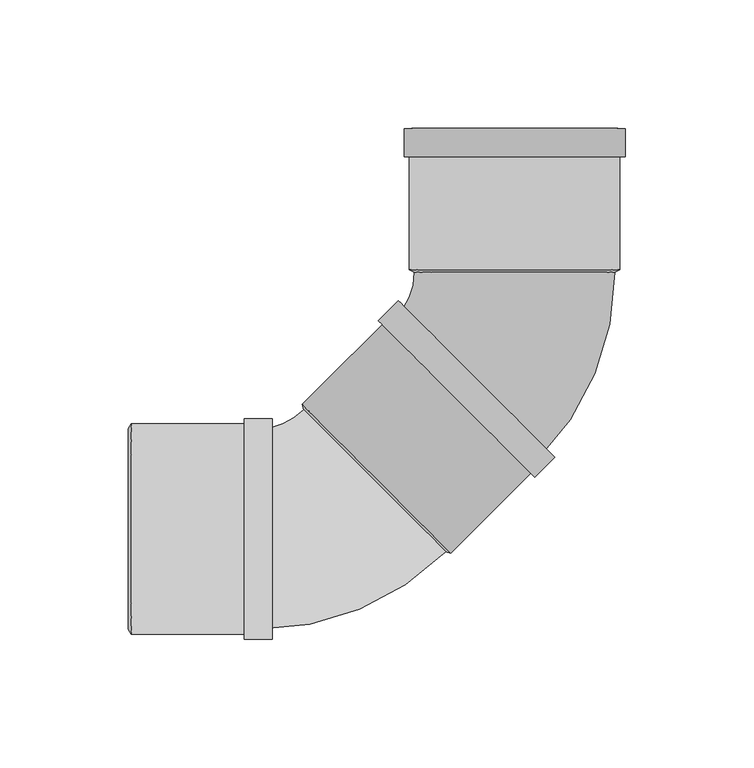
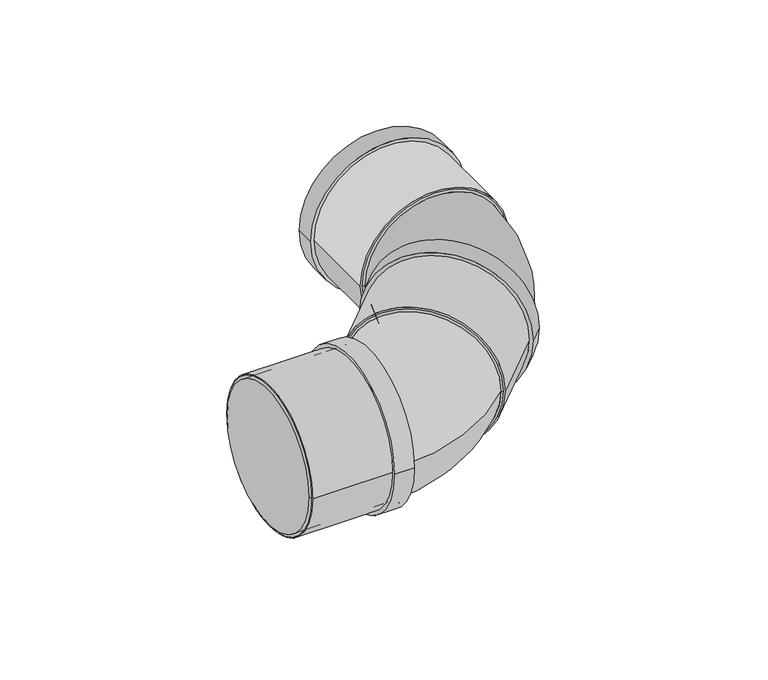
"""IFC4 building model written with IfcOpenShell, lengths in millimetres: pipe fitting geometry, Superdrain SK Bend_Composite 2x45 : Superdrain SK Bend_Composite 2x45."""

from ifc_helpers import new_model, si_unit, point, frame, origin, origin_2d, place, context, project, spatial, polyline, circle_curve, ellipse_curve, trimmed, segment, composite_curve, outline, extrude, source, transform, mapped, element, save
from ifc_brep_helpers import plane_surface, revolved_surface, advanced_brep


def pipe_fitting_d8c1b99f(model_context):
    return source(origin(), model_context, "Body", "SolidModel", [
        advanced_brep(
        [(39.0, 99.8562625, 0.0), (-39.0, 99.8562625, 0.0), (8.7681241, 26.8700577, 0.0), (-46.3862048, 82.0243866, 0.0)],
        [
            (0, 1, circle_curve(frame((0.0, 99.8562625, 0.0), z_axis=(0.0, 1.0, 0.0), x_axis=(-1.0, 0.0, 0.0)), 39.0)),
            (1, 0, circle_curve(frame((0.0, 99.8562625, 0.0), z_axis=(0.0, 1.0, 0.0), x_axis=(-1.0, 0.0, 0.0)), 39.0)),
            (2, 3, circle_curve(frame((-18.8090404, 54.4472222, 0.0), z_axis=(-0.7071067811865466, -0.7071067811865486, 0.0), x_axis=(-0.7071067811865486, 0.7071067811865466, 0.0)), 39.0)),
            (3, 2, circle_curve(frame((-18.8090404, 54.4472222, 0.0), z_axis=(-0.7071067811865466, -0.7071067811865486, 0.0), x_axis=(-0.7071067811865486, 0.7071067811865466, 0.0)), 39.0)),
            (3, 1, circle_curve(frame((-64.2180808, 99.8562625, 0.0), z_axis=(0.0, 0.0, 1.0), x_axis=(0.707106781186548, 0.7071067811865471, 0.0)), 25.2180808)),
            (0, 2, circle_curve(frame((-64.2180808, 99.8562625, 0.0), z_axis=(0.0, 0.0, -1.0), x_axis=(0.707106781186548, 0.7071067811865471, 0.0)), 103.2180808)),
        ],
        [
            plane_surface(frame((0.0, 99.8562625, 0.0), z_axis=(0.0, 1.0, 0.0), x_axis=(0.0, 0.0, -1.0))),
            plane_surface(frame((-18.8090404, 54.4472222, 0.0), z_axis=(-0.7071067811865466, -0.7071067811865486, 0.0), x_axis=(0.0, 0.0, -1.0))),
            revolved_surface(trimmed(ellipse_curve(frame((-18.8090404, 145.2653029, 0.0), z_axis=(0.7071067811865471, -0.707106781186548, 0.0), x_axis=(-0.707106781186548, -0.7071067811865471, 0.0)), 39.0, 39.0), [point((-46.3862048, 117.6881384, 0.0))], [point((8.7681241, 172.8424674, 0.0))], True, "CARTESIAN"), (-64.2180808, 99.8562625, 0.0), (0.0, 0.0, 1.0)),
            revolved_surface(trimmed(ellipse_curve(frame((-18.8090404, 145.2653029, 0.0), z_axis=(0.7071067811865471, -0.707106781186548, 0.0), x_axis=(-0.707106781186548, -0.7071067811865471, 0.0)), 39.0, 39.0), [point((8.7681241, 172.8424674, 0.0))], [point((-46.3862048, 117.6881384, 0.0))], True, "CARTESIAN"), (-64.2180808, 99.8562625, 0.0), (0.0, 0.0, 1.0)),
        ],
        [
            (0, [[1, 2]]),
            (1, [[3, 4]]),
            (2, [[-4, 5, -1, 6]]),
            (3, [[-3, -6, -2, -5]]),
        ],
    ),
        extrude(outline(composite_curve([segment(trimmed(circle_curve(origin_2d(), 40.95), [point((0.0, 40.95))], [point((0.0, -40.95))], False, "CARTESIAN"), True, "CONTINUOUS"), segment(trimmed(circle_curve(origin_2d(), 40.95), [point((0.0, -40.95))], [point((0.0, 40.95))], False, "CARTESIAN"), True, "CONTINUOUS")], self_intersect=False), holes=[composite_curve([segment(trimmed(circle_curve(origin_2d(), 39.0), [point((0.0, 39.0))], [point((0.0, -39.0))], True, "CARTESIAN"), True, "CONTINUOUS"), segment(trimmed(circle_curve(origin_2d(), 39.0), [point((0.0, -39.0))], [point((0.0, 39.0))], True, "CARTESIAN"), True, "CONTINUOUS")], self_intersect=False)]), frame((0.0, 100.8562625, 0.0), z_axis=(0.0, 1.0, 0.0), x_axis=(0.0, 0.0, 1.0)), (0.0, 0.0, 1.0), 55.0),
        extrude(outline(composite_curve([segment(trimmed(circle_curve(origin_2d(), 42.9975), [point((0.0, -42.9975))], [point((0.0, 42.9975))], False, "CARTESIAN"), True, "CONTINUOUS"), segment(trimmed(circle_curve(origin_2d(), 42.9975), [point((0.0, 42.9975))], [point((0.0, -42.9975))], False, "CARTESIAN"), True, "CONTINUOUS")], self_intersect=False), holes=[composite_curve([segment(trimmed(circle_curve(origin_2d(), 39.0), [point((0.0, -39.0))], [point((0.0, 39.0))], True, "CARTESIAN"), True, "CONTINUOUS"), segment(trimmed(circle_curve(origin_2d(), 39.0), [point((0.0, 39.0))], [point((0.0, -39.0))], True, "CARTESIAN"), True, "CONTINUOUS")], self_intersect=False)]), frame((0.0, 144.8562625, 0.0), z_axis=(0.0, 1.0, 0.0), x_axis=(0.0, 0.0, 1.0)), (0.0, 0.0, 1.0), 11.0),
        advanced_brep(
        [(40.95, 100.8562625, 0.0), (-40.95, 100.8562625, 0.0), (39.0, 99.8562625, 0.0), (-39.0, 99.8562625, 0.0)],
        [
            (0, 1, circle_curve(frame((0.0, 100.8562625, 0.0), z_axis=(0.0, 1.0, 0.0), x_axis=(1.0, 0.0, 0.0)), 40.95)),
            (1, 0, circle_curve(frame((0.0, 100.8562625, 0.0), z_axis=(0.0, 1.0, 0.0), x_axis=(-1.0, 0.0, 0.0)), 40.95)),
            (2, 3, circle_curve(frame((0.0, 99.8562625, 0.0), z_axis=(0.0, -1.0, 0.0), x_axis=(-1.0, 0.0, 0.0)), 39.0)),
            (3, 2, circle_curve(frame((0.0, 99.8562625, 0.0), z_axis=(0.0, -1.0, 0.0), x_axis=(1.0, 0.0, 0.0)), 39.0)),
            (3, 1),
            (0, 2),
        ],
        [
            plane_surface(frame((0.0, 100.8562625, 0.0), z_axis=(0.0, 1.0, 0.0), x_axis=(0.0, 0.0, -1.0))),
            plane_surface(frame((0.0, 99.8562625, 0.0), z_axis=(0.0, -1.0, 0.0), x_axis=(0.0, 0.0, -1.0))),
            revolved_surface(polyline([(-39.0, 99.8562625, 0.0), (-40.95, 100.8562625, 0.0)]), (0.0, 79.8562625, 0.0), (0.0, 1.0, 0.0)),
            revolved_surface(polyline([(39.0, 99.8562625, 0.0), (40.95, 100.8562625, 0.0)]), (0.0, 79.8562625, 0.0), (0.0, 1.0, 0.0)),
        ],
        [
            (0, [[1, 2]]),
            (1, [[3, 4]]),
            (2, [[-4, 5, -1, 6]]),
            (3, [[-3, -6, -2, -5]]),
        ],
    ),
        extrude(outline(composite_curve([segment(trimmed(circle_curve(origin_2d(), 39.0), [point((0.0, -39.0))], [point((0.0, 38.9999999))], False, "CARTESIAN"), True, "CONTINUOUS"), segment(trimmed(circle_curve(origin_2d(), 39.0), [point((0.0, 38.9999999))], [point((0.0, -39.0))], False, "CARTESIAN"), True, "CONTINUOUS")], self_intersect=False)), frame((-53.7401154, 19.5161472, 0.0), z_axis=(0.707106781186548, 0.7071067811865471, 0.0), x_axis=(0.0, 0.0, -1.0)), (0.0, 0.0, 1.0), 49.4),
        extrude(outline(composite_curve([segment(trimmed(circle_curve(origin_2d(), 40.95), [point((40.95, 0.0))], [point((-40.95, 0.0))], False, "CARTESIAN"), True, "CONTINUOUS"), segment(trimmed(circle_curve(origin_2d(), 40.95), [point((-40.95, 0.0))], [point((40.95, 0.0))], False, "CARTESIAN"), True, "CONTINUOUS")], self_intersect=False), holes=[composite_curve([segment(trimmed(circle_curve(origin_2d(), 39.0), [point((39.0, 0.0))], [point((-39.0, 0.0))], True, "CARTESIAN"), True, "CONTINUOUS"), segment(trimmed(circle_curve(origin_2d(), 39.0), [point((-39.0, 0.0))], [point((39.0, 0.0))], True, "CARTESIAN"), True, "CONTINUOUS")], self_intersect=False)]), frame((-149.2562625, 0.0, 0.0), z_axis=(1.0, 0.0, 0.0), x_axis=(0.0, 1.0, 0.0)), (0.0, 0.0, 1.0), 55.0),
        extrude(outline(composite_curve([segment(trimmed(circle_curve(origin_2d(), 42.9975), [point((42.9975, 0.0))], [point((-42.9975, 0.0))], False, "CARTESIAN"), True, "CONTINUOUS"), segment(trimmed(circle_curve(origin_2d(), 42.9975), [point((-42.9975, 0.0))], [point((42.9975, 0.0))], False, "CARTESIAN"), True, "CONTINUOUS")], self_intersect=False), holes=[composite_curve([segment(trimmed(circle_curve(origin_2d(), 39.0), [point((39.0, 0.0))], [point((-39.0, 0.0))], True, "CARTESIAN"), True, "CONTINUOUS"), segment(trimmed(circle_curve(origin_2d(), 39.0), [point((-39.0, 0.0))], [point((39.0, 0.0))], True, "CARTESIAN"), True, "CONTINUOUS")], self_intersect=False)]), frame((-105.2562625, 0.0, 0.0), z_axis=(1.0, 0.0, 0.0), x_axis=(0.0, 1.0, 0.0)), (0.0, 0.0, 1.0), 11.0),
        advanced_brep(
        [(-150.2562625, 39.0, 0.0), (-150.2562625, -39.0, 0.0), (-149.2562625, 40.95, 0.0), (-149.2562625, -40.95, 0.0)],
        [
            (0, 1, circle_curve(frame((-150.2562625, 0.0, 0.0), z_axis=(-1.0, 0.0, 0.0), x_axis=(0.0, 1.0, 0.0)), 39.0)),
            (1, 0, circle_curve(frame((-150.2562625, 0.0, 0.0), z_axis=(-1.0, 0.0, 0.0), x_axis=(0.0, -1.0, 0.0)), 39.0)),
            (2, 3, circle_curve(frame((-149.2562625, 0.0, 0.0), z_axis=(1.0, 0.0, 0.0), x_axis=(0.0, -1.0, 0.0)), 40.95)),
            (3, 2, circle_curve(frame((-149.2562625, 0.0, 0.0), z_axis=(1.0, 0.0, 0.0), x_axis=(0.0, 1.0, 0.0)), 40.95)),
            (3, 1),
            (0, 2),
        ],
        [
            plane_surface(frame((-150.2562625, 0.0, 0.0), z_axis=(-1.0, 0.0, 0.0), x_axis=(0.0, 0.0, -1.0))),
            plane_surface(frame((-149.2562625, 0.0, 0.0), z_axis=(1.0, 0.0, 0.0), x_axis=(0.0, 0.0, -1.0))),
            revolved_surface(polyline([(-150.2562625, 39.0, 0.0), (-149.2562625, 40.95, 0.0)]), (-170.2562625, 0.0, 0.0), (1.0, 0.0, 0.0)),
            revolved_surface(polyline([(-150.2562625, -39.0, 0.0), (-149.2562625, -40.95, 0.0)]), (-170.2562625, 0.0, 0.0), (1.0, 0.0, 0.0)),
        ],
        [
            (0, [[1, 2]]),
            (1, [[3, 4]]),
            (2, [[-4, 5, -1, 6]]),
            (3, [[-3, -6, -2, -5]]),
        ],
    ),
        advanced_brep(
        [(-26.8700577, -8.7681241, 0.0), (-82.0243866, 46.3862048, 0.0), (-99.8562625, -39.0, 0.0), (-99.8562625, 39.0, 0.0)],
        [
            (0, 1, circle_curve(frame((-54.4472222, 18.8090404, 0.0), z_axis=(0.7071067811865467, 0.7071067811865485, 0.0), x_axis=(-0.7071067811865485, 0.7071067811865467, 0.0)), 39.0)),
            (1, 0, circle_curve(frame((-54.4472222, 18.8090404, 0.0), z_axis=(0.7071067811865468, 0.7071067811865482, 0.0), x_axis=(-0.7071067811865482, 0.7071067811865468, 0.0)), 39.0)),
            (2, 3, circle_curve(frame((-99.8562625, 0.0, 0.0), z_axis=(-1.0, 0.0, 0.0), x_axis=(0.0, 1.0, 0.0)), 39.0)),
            (3, 2, circle_curve(frame((-99.8562625, 0.0, 0.0), z_axis=(-1.0, 0.0, 0.0), x_axis=(0.0, 1.0, 0.0)), 39.0)),
            (3, 1, circle_curve(frame((-99.8562625, 64.2180808, 0.0), z_axis=(0.0, 0.0, 1.0), x_axis=(1.0, 0.0, 0.0)), 25.2180808)),
            (0, 2, circle_curve(frame((-99.8562625, 64.2180808, 0.0), z_axis=(0.0, 0.0, -1.0), x_axis=(1.0, 0.0, 0.0)), 103.2180808)),
        ],
        [
            plane_surface(frame((-54.4472222, 18.8090404, 0.0), z_axis=(0.7071067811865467, 0.7071067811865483, 0.0), x_axis=(0.0, 0.0, -1.0))),
            plane_surface(frame((-99.8562625, 0.0, 0.0), z_axis=(-1.0, 0.0, 0.0), x_axis=(0.0, 0.0, -1.0))),
            revolved_surface(trimmed(ellipse_curve(frame((-35.6381818, 64.2180808, 0.0), z_axis=(0.0, -1.0, 0.0), x_axis=(-1.0, 0.0, 0.0)), 39.0, 39.0), [point((-74.6381818, 64.2180808, 0.0))], [point((3.3618182, 64.2180808, 0.0))], True, "CARTESIAN"), (-99.8562625, 64.2180808, 0.0), (0.0, 0.0, 1.0)),
            revolved_surface(trimmed(ellipse_curve(frame((-35.6381818, 64.2180808, 0.0), z_axis=(0.0, -1.0, 0.0), x_axis=(-1.0, 0.0, 0.0)), 39.0, 39.0), [point((3.3618182, 64.2180808, 0.0))], [point((-74.6381818, 64.2180808, 0.0))], True, "CARTESIAN"), (-99.8562625, 64.2180808, 0.0), (0.0, 0.0, 1.0)),
        ],
        [
            (0, [[1, 2]]),
            (1, [[3, 4]]),
            (2, [[-4, 5, -1, 6]]),
            (3, [[-3, -6, -2, -5]]),
        ],
    ),
        extrude(outline(composite_curve([segment(trimmed(circle_curve(origin_2d(), 40.95), [point((0.0, 40.95))], [point((0.0, -40.95))], False, "CARTESIAN"), True, "CONTINUOUS"), segment(trimmed(circle_curve(origin_2d(), 40.95), [point((0.0, -40.95))], [point((0.0, 40.95))], False, "CARTESIAN"), True, "CONTINUOUS")], self_intersect=False), holes=[composite_curve([segment(trimmed(circle_curve(origin_2d(), 39.0), [point((0.0, 39.0))], [point((0.0, -38.9999999))], True, "CARTESIAN"), True, "CONTINUOUS"), segment(trimmed(circle_curve(origin_2d(), 39.0), [point((0.0, -38.9999999))], [point((0.0, 39.0))], True, "CARTESIAN"), True, "CONTINUOUS")], self_intersect=False)]), frame((-53.7401154, 19.5161472, 0.0), z_axis=(0.7071067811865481, 0.707106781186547, 0.0), x_axis=(0.0, 0.0, 1.0)), (0.0, 0.0, 1.0), 55.0),
        extrude(outline(composite_curve([segment(trimmed(circle_curve(origin_2d(), 42.9975), [point((0.0, -42.9975))], [point((0.0, 42.9975))], False, "CARTESIAN"), True, "CONTINUOUS"), segment(trimmed(circle_curve(origin_2d(), 42.9975), [point((0.0, 42.9975))], [point((0.0, -42.9975))], False, "CARTESIAN"), True, "CONTINUOUS")], self_intersect=False), holes=[composite_curve([segment(trimmed(circle_curve(origin_2d(), 39.0), [point((0.0, -39.0))], [point((0.0, 39.0))], True, "CARTESIAN"), True, "CONTINUOUS"), segment(trimmed(circle_curve(origin_2d(), 39.0), [point((0.0, 39.0))], [point((0.0, -39.0))], True, "CARTESIAN"), True, "CONTINUOUS")], self_intersect=False)]), frame((-22.627417, 50.6288455, 0.0), z_axis=(0.7071067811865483, 0.7071067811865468, 0.0), x_axis=(0.0, 0.0, 1.0)), (0.0, 0.0, 1.0), 11.0),
        advanced_brep(
        [(-24.7840927, -9.4398755, 0.0), (-82.6961381, 48.4721699, 0.0), (-26.8700577, -8.7681241, 0.0), (-82.0243866, 46.3862048, 0.0)],
        [
            (0, 1, circle_curve(frame((-53.7401154, 19.5161472, 0.0), z_axis=(0.7071067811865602, 0.7071067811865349, 0.0), x_axis=(0.7071067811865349, -0.7071067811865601, 0.0)), 40.95)),
            (1, 0, circle_curve(frame((-53.7401154, 19.5161472, 0.0), z_axis=(0.7071067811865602, 0.7071067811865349, 0.0), x_axis=(-0.7071067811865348, 0.7071067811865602, 0.0)), 40.95)),
            (2, 3, circle_curve(frame((-54.4472222, 18.8090404, 0.0), z_axis=(-0.7071067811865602, -0.7071067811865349, 0.0), x_axis=(-0.7071067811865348, 0.7071067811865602, 0.0)), 39.0)),
            (3, 2, circle_curve(frame((-54.4472222, 18.8090404, 0.0), z_axis=(-0.7071067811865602, -0.7071067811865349, 0.0), x_axis=(0.7071067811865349, -0.7071067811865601, 0.0)), 39.0)),
            (3, 1),
            (0, 2),
        ],
        [
            plane_surface(frame((-53.7401154, 19.5161472, 0.0), z_axis=(0.7071067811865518, 0.7071067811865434, 0.0), x_axis=(0.0, 0.0, -1.0))),
            plane_surface(frame((-54.4472222, 18.8090404, 0.0), z_axis=(-0.7071067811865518, -0.7071067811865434, 0.0), x_axis=(0.0, 0.0, -1.0))),
            revolved_surface(polyline([(-82.02438663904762, 46.38620483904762, 0.0), (-82.69613810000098, 48.47216990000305, 0.0)]), (-68.5893578, 4.6669048, 0.0), (0.7071067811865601, 0.7071067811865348, 0.0)),
            revolved_surface(polyline([(-26.870057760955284, -8.768124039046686, 0.0), (-24.784092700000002, -9.4398755, 0.0)]), (-68.5893578, 4.6669048, 0.0), (0.7071067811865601, 0.7071067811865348, 0.0)),
        ],
        [
            (0, [[1, 2]]),
            (1, [[3, 4]]),
            (2, [[-4, 5, -1, 6]]),
            (3, [[-3, -6, -2, -5]]),
        ],
    ),
        extrude(outline(composite_curve([segment(trimmed(circle_curve(origin_2d(), 39.0), [point((-39.0, 0.0))], [point((39.0, 0.0))], False, "CARTESIAN"), True, "CONTINUOUS"), segment(trimmed(circle_curve(origin_2d(), 39.0), [point((39.0, 0.0))], [point((-39.0, 0.0))], False, "CARTESIAN"), True, "CONTINUOUS")], self_intersect=False)), frame((-149.2562625, 0.0, 0.0), z_axis=(1.0, 0.0, 0.0), x_axis=(0.0, 1.0, 0.0)), (0.0, 0.0, 1.0), 49.4),
    ])


if __name__ == "__main__":
    model = new_model("IFC4")
    model_context = context("Model", 3, world=origin())
    ifc_project = project(units=[si_unit("LENGTHUNIT", "METRE", prefix="MILLI")], contexts=[model_context])
    site = spatial("IfcSite", under=ifc_project)
    building = spatial("IfcBuilding", under=site)
    placement = place(None, origin())
    pipe_fitting_shape = pipe_fitting_d8c1b99f(model_context)
    element("IfcPipeFitting", 1, ObjectType="Superdrain SK Bend_Composite 2x45 : Superdrain SK Bend_Composite 2x45", at=placement, inside=building, context=model_context, shape_type="MappedRepresentation", body=[
        mapped(pipe_fitting_shape, transform((0.0, 0.0, 0.0), x_axis=(1.0, 0.0, 0.0), y_axis=(0.0, 1.0, 0.0), z_axis=(0.0, 0.0, 1.0))),
    ])
    save(model, "model.ifc")
